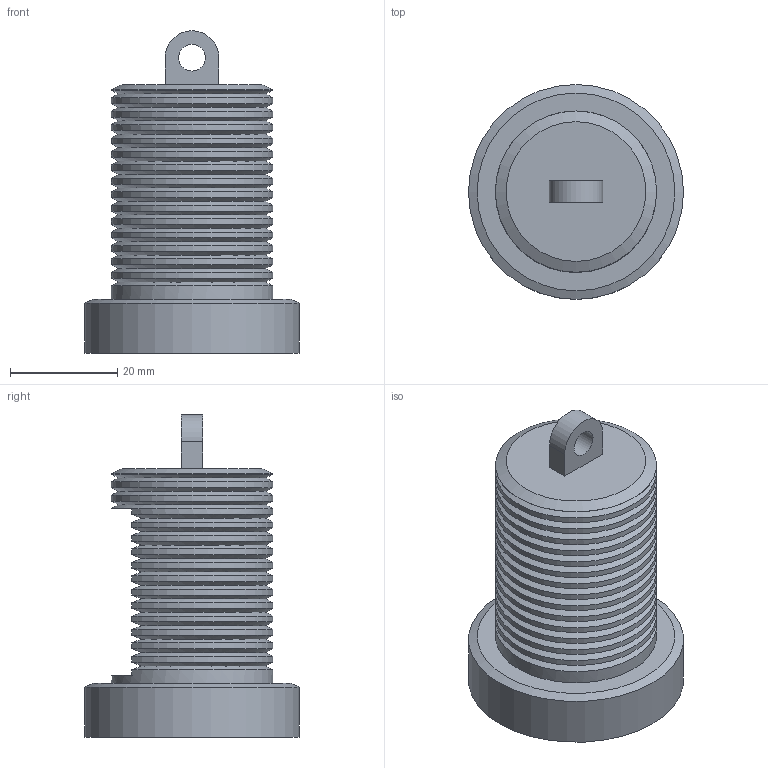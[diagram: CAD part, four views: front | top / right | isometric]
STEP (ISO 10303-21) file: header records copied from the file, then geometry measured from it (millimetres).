
FILE_DESCRIPTION(('FreeCAD Model'),'2;1');
FILE_NAME('Open CASCADE Shape Model','2026-09-13T15:05:24',('FreeCAD'),( 'FreeCAD'),'Open CASCADE STEP processor 7.8','FreeCAD','Unknown');
FILE_SCHEMA(('AUTOMOTIVE_DESIGN { 1 0 10303 214 1 1 1 1 }'));
Products named in the file (1): Open CASCADE STEP translator 7.8 2
Bounding box: 40 x 40 x 60 mm (x, y, z)
Volume: 35868.9 mm3; surface area: 11461.6 mm2
Topology: 1 solids, 1 shells, 3812 faces, 11171 edges, 7441 vertices
Faces by surface type: plane 3684, cone 56, extrusion 52, cylinder 20
Full cylindrical faces by diameter (mm): 5 x1, 30 x5, 36.4 x1, 40 x1
Entity records: 124304 total; most frequent: CARTESIAN_POINT 23039, ORIENTED_EDGE 22342, DIRECTION 18786, EDGE_CURVE 11171, VECTOR 10966, LINE 10914, VERTEX_POINT 7441, AXIS2_PLACEMENT_3D 3910
